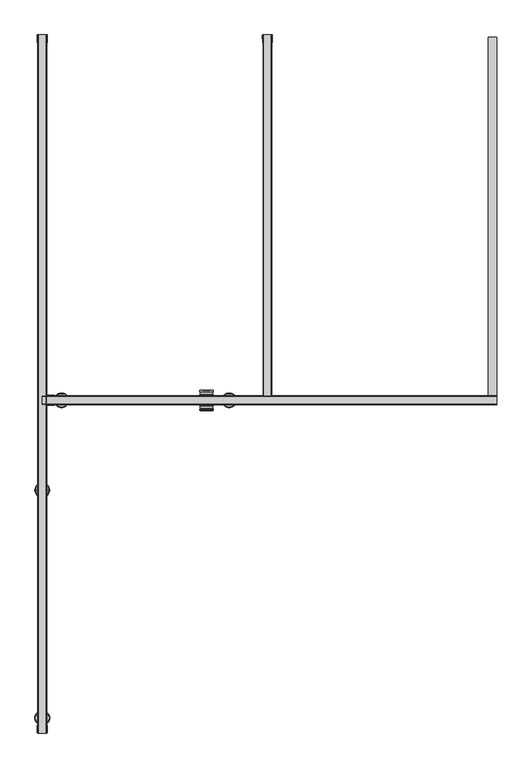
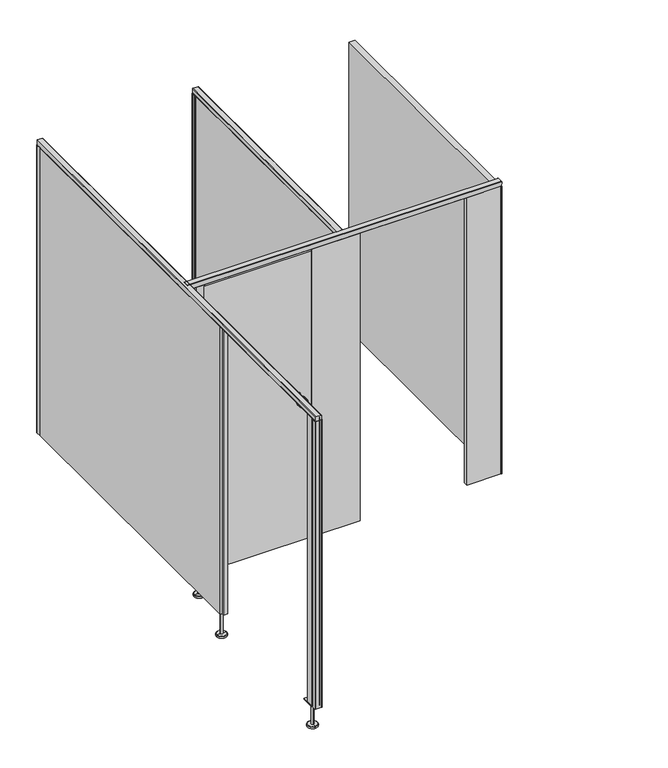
"""IFC4 building model written with IfcOpenShell, lengths in millimetres: proxy geometry, Partition_EuroStyle-Bradley_Corp-ADA_Alcove_2StandardStall-LOFT : Partition_EuroStyle-Bradley_Corp-ADA_Alcove_2StandardStall-LOFT."""

from ifc_helpers import new_model, si_unit, point, frame, frame_2d, origin, place, context, project, spatial, polyline, circle_curve, ellipse_curve, trimmed, segment, composite_curve, outline, extrude, source, transform, mapped, element, save
from ifc_brep_helpers import plane_surface, cylinder_surface, revolved_surface, advanced_brep


def specialty_equipment_827a1ed1(model_context):
    return source(origin(), model_context, "Body", "SolidModel", [
        advanced_brep(
        [(2232.4451766, -1524.0098174, 1050.0), (2289.5951766, -1524.0098174, 1050.0), (2261.0201766, -1524.0098174, 1050.0), (2232.4451766, -1519.2473174, 1050.0), (2289.5951766, -1519.2473174, 1050.0), (2232.4451766, -1500.1973174, 1050.0), (2289.5951766, -1500.1973174, 1050.0), (2289.5951766, -1504.9598174, 1050.0), (2232.4451766, -1504.9598174, 1050.0), (2288.0076766, -1506.5473174, 1050.0), (2234.0326766, -1506.5473174, 1050.0), (2288.0076766, -1517.6598174, 1050.0), (2234.0326766, -1517.6598174, 1050.0), (2261.0201766, -1498.6098174, 1050.0)],
        [
            (0, 1, circle_curve(frame((2261.0201766, -1524.0098174, 1050.0), z_axis=(0.0, -1.0, 0.0), x_axis=(1.0000000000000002, 0.0, 0.0)), 28.575)),
            (1, 2),
            (2, 0),
            (1, 0, circle_curve(frame((2261.0201766, -1524.0098174, 1050.0), z_axis=(0.0, -1.0, 0.0), x_axis=(1.0000000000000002, 0.0, 0.0)), 28.575)),
            (3, 4, circle_curve(frame((2261.0201766, -1519.2473174, 1050.0), z_axis=(0.0, -1.0, 0.0), x_axis=(1.0000000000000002, 0.0, 0.0)), 28.575)),
            (4, 1),
            (0, 3),
            (4, 3, circle_curve(frame((2261.0201766, -1519.2473174, 1050.0), z_axis=(0.0, -1.0, 0.0), x_axis=(1.0000000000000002, 0.0, 0.0)), 28.575)),
            (5, 6, circle_curve(frame((2261.0201766, -1500.1973174, 1050.0), z_axis=(0.0, -1.0, 0.0), x_axis=(1.0000000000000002, 0.0, 0.0)), 28.575)),
            (6, 7),
            (7, 8, circle_curve(frame((2261.0201766, -1504.9598174, 1050.0), z_axis=(0.0, 1.0, 0.0), x_axis=(1.0000000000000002, 0.0, 0.0)), 28.575)),
            (8, 5),
            (6, 5, circle_curve(frame((2261.0201766, -1500.1973174, 1050.0), z_axis=(0.0, -1.0, 0.0), x_axis=(1.0000000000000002, 0.0, 0.0)), 28.575)),
            (8, 7, circle_curve(frame((2261.0201766, -1504.9598174, 1050.0), z_axis=(0.0, 1.0, 0.0), x_axis=(1.0000000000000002, 0.0, 0.0)), 28.575)),
            (7, 9, circle_curve(frame((2289.5951766, -1506.5473174, 1050.0), z_axis=(0.0, 0.0, 1.0), x_axis=(1.0000000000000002, 0.0, 0.0)), 1.5875)),
            (9, 10, circle_curve(frame((2261.0201766, -1506.5473174, 1050.0), z_axis=(0.0, 1.0, 0.0), x_axis=(1.0000000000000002, 0.0, 0.0)), 26.9875)),
            (10, 8, circle_curve(frame((2232.4451766, -1506.5473174, 1050.0), z_axis=(0.0, 0.0, 1.0), x_axis=(-1.0000000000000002, 0.0, 0.0)), 1.5875)),
            (10, 9, circle_curve(frame((2261.0201766, -1506.5473174, 1050.0), z_axis=(0.0, 1.0, 0.0), x_axis=(1.0000000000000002, 0.0, 0.0)), 26.9875)),
            (9, 11),
            (11, 12, circle_curve(frame((2261.0201766, -1517.6598174, 1050.0), z_axis=(0.0, 1.0, 0.0), x_axis=(1.0000000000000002, 0.0, 0.0)), 26.9875)),
            (12, 10),
            (12, 11, circle_curve(frame((2261.0201766, -1517.6598174, 1050.0), z_axis=(0.0, 1.0, 0.0), x_axis=(1.0000000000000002, 0.0, 0.0)), 26.9875)),
            (11, 4, circle_curve(frame((2289.5951766, -1517.6598174, 1050.0), z_axis=(0.0, 0.0, 1.0), x_axis=(1.0000000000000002, 0.0, 0.0)), 1.5875)),
            (3, 12, circle_curve(frame((2232.4451766, -1517.6598174, 1050.0), z_axis=(0.0, 0.0, 1.0), x_axis=(-1.0000000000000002, 0.0, 0.0)), 1.5875)),
            (13, 6, circle_curve(frame((2264.7143, -1690.0843466, 1050.0), z_axis=(0.0, 0.0, -1.0), x_axis=(1.0000000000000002, 0.0, 0.0)), 191.5101613)),
            (5, 13, circle_curve(frame((2257.3260533, -1690.0843466, 1050.0), z_axis=(0.0, 0.0, -1.0), x_axis=(-1.0000000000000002, 0.0, 0.0)), 191.5101613)),
        ],
        [
            plane_surface(frame((2261.0201766, -1524.0098174, 1050.0), z_axis=(0.0, -1.0, 0.0), x_axis=(1.0, 0.0, 0.0))),
            cylinder_surface(frame((2261.0201766, -1524.0098174, 1050.0), z_axis=(0.0, 1.0000000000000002, 0.0), x_axis=(1.0000000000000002, 0.0, 0.0)), 28.575),
            revolved_surface(trimmed(ellipse_curve(frame((2289.5951766, -1506.5473174, 1050.0), z_axis=(0.0, 0.0, -1.0), x_axis=(1.0000000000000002, 0.0, 0.0)), 1.5875, 1.5875), [point((2288.0076766, -1506.5473174, 1050.0))], [point((2289.5951766, -1504.9598174, 1050.0))], True, "CARTESIAN"), (2261.0201766, -1524.0098174, 1050.0), (0.0, 1.0000000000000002, 0.0)),
            cylinder_surface(frame((2261.0201766, -1524.0098174, 1050.0), z_axis=(0.0, 1.0000000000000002, 0.0), x_axis=(1.0000000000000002, 0.0, 0.0)), 26.9875),
            revolved_surface(trimmed(ellipse_curve(frame((2289.5951766, -1517.6598174, 1050.0), z_axis=(0.0, 0.0, -1.0), x_axis=(1.0000000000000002, 0.0, 0.0)), 1.5875, 1.5875), [point((2289.5951766, -1519.2473174, 1050.0))], [point((2288.0076766, -1517.6598174, 1050.0))], True, "CARTESIAN"), (2261.0201766, -1524.0098174, 1050.0), (0.0, 1.0000000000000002, 0.0)),
            revolved_surface(trimmed(ellipse_curve(frame((2264.7143, -1690.0843466, 1050.0), z_axis=(0.0, 0.0, 1.0), x_axis=(1.0000000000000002, 0.0, 0.0)), 191.5101613, 191.5101613), [point((2289.5951766, -1500.1973174, 1050.0))], [point((2261.0201766, -1498.6098174, 1050.0))], True, "CARTESIAN"), (2261.0201766, -1524.0098174, 1050.0), (0.0, 1.0000000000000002, 0.0)),
        ],
        [
            (0, [[1, 2, 3]]),
            (0, [[4, -3, -2]]),
            (1, [[5, 6, -1, 7]]),
            (1, [[8, -7, -4, -6]]),
            (1, [[9, 10, 11, 12]]),
            (1, [[13, -12, 14, -10]]),
            (2, [[-11, 15, 16, 17]]),
            (2, [[-14, -17, 18, -15]]),
            (3, [[-16, 19, 20, 21]]),
            (3, [[-18, -21, 22, -19]]),
            (4, [[-20, 23, -5, 24]]),
            (4, [[-22, -24, -8, -23]]),
            (5, [[25, -9, 26]]),
            (5, [[-26, -13, -25]]),
        ],
    ),
        advanced_brep(
        [(2261.0201766, -1560.0098174, 1050.0), (2289.5951766, -1560.0098174, 1050.0), (2232.4451766, -1560.0098174, 1050.0), (2289.5951766, -1564.7723174, 1050.0), (2232.4451766, -1564.7723174, 1050.0), (2232.4451766, -1579.0598174, 1050.0), (2289.5951766, -1579.0598174, 1050.0), (2289.5951766, -1583.8223174, 1050.0), (2232.4451766, -1583.8223174, 1050.0), (2234.0326766, -1577.4723174, 1050.0), (2288.0076766, -1577.4723174, 1050.0), (2234.0326766, -1566.3598174, 1050.0), (2288.0076766, -1566.3598174, 1050.0), (2261.0201766, -1585.4098174, 1050.0)],
        [
            (0, 1),
            (1, 2, circle_curve(frame((2261.0201766, -1560.0098174, 1050.0), z_axis=(0.0, 1.0, 0.0), x_axis=(1.0000000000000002, 0.0, 0.0)), 28.575)),
            (2, 0),
            (2, 1, circle_curve(frame((2261.0201766, -1560.0098174, 1050.0), z_axis=(0.0, 1.0, 0.0), x_axis=(1.0000000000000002, 0.0, 0.0)), 28.575)),
            (1, 3),
            (3, 4, circle_curve(frame((2261.0201766, -1564.7723174, 1050.0), z_axis=(0.0, 1.0, 0.0), x_axis=(1.0000000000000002, 0.0, 0.0)), 28.575)),
            (4, 2),
            (4, 3, circle_curve(frame((2261.0201766, -1564.7723174, 1050.0), z_axis=(0.0, 1.0, 0.0), x_axis=(1.0000000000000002, 0.0, 0.0)), 28.575)),
            (5, 6, circle_curve(frame((2261.0201766, -1579.0598174, 1050.0), z_axis=(0.0, -1.0, 0.0), x_axis=(1.0000000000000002, 0.0, 0.0)), 28.575)),
            (6, 7),
            (7, 8, circle_curve(frame((2261.0201766, -1583.8223174, 1050.0), z_axis=(0.0, 1.0, 0.0), x_axis=(1.0000000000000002, 0.0, 0.0)), 28.575)),
            (8, 5),
            (6, 5, circle_curve(frame((2261.0201766, -1579.0598174, 1050.0), z_axis=(0.0, -1.0, 0.0), x_axis=(1.0000000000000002, 0.0, 0.0)), 28.575)),
            (8, 7, circle_curve(frame((2261.0201766, -1583.8223174, 1050.0), z_axis=(0.0, 1.0, 0.0), x_axis=(1.0000000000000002, 0.0, 0.0)), 28.575)),
            (9, 10, circle_curve(frame((2261.0201766, -1577.4723174, 1050.0), z_axis=(0.0, -1.0, 0.0), x_axis=(1.0000000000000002, 0.0, 0.0)), 26.9875)),
            (10, 6, circle_curve(frame((2289.5951766, -1577.4723174, 1050.0), z_axis=(0.0, 0.0, 1.0), x_axis=(1.0000000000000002, 0.0, 0.0)), 1.5875)),
            (5, 9, circle_curve(frame((2232.4451766, -1577.4723174, 1050.0), z_axis=(0.0, 0.0, 1.0), x_axis=(-1.0000000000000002, 0.0, 0.0)), 1.5875)),
            (10, 9, circle_curve(frame((2261.0201766, -1577.4723174, 1050.0), z_axis=(0.0, -1.0, 0.0), x_axis=(1.0000000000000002, 0.0, 0.0)), 26.9875)),
            (11, 12, circle_curve(frame((2261.0201766, -1566.3598174, 1050.0), z_axis=(0.0, -1.0, 0.0), x_axis=(1.0000000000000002, 0.0, 0.0)), 26.9875)),
            (12, 10),
            (9, 11),
            (12, 11, circle_curve(frame((2261.0201766, -1566.3598174, 1050.0), z_axis=(0.0, -1.0, 0.0), x_axis=(1.0000000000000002, 0.0, 0.0)), 26.9875)),
            (3, 12, circle_curve(frame((2289.5951766, -1566.3598174, 1050.0), z_axis=(0.0, 0.0, 1.0), x_axis=(1.0000000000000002, 0.0, 0.0)), 1.5875)),
            (11, 4, circle_curve(frame((2232.4451766, -1566.3598174, 1050.0), z_axis=(0.0, 0.0, 1.0), x_axis=(-1.0000000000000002, 0.0, 0.0)), 1.5875)),
            (7, 13, circle_curve(frame((2264.7143, -1393.9352882, 1050.0), z_axis=(0.0, 0.0, -1.0), x_axis=(1.0000000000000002, 0.0, 0.0)), 191.5101613)),
            (13, 8, circle_curve(frame((2257.3260533, -1393.9352882, 1050.0), z_axis=(0.0, 0.0, -1.0), x_axis=(-1.0000000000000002, 0.0, 0.0)), 191.5101613)),
        ],
        [
            plane_surface(frame((2261.0201766, -1560.0098174, 1050.0), z_axis=(0.0, 1.0, 0.0), x_axis=(1.0, 0.0, 0.0))),
            cylinder_surface(frame((2261.0201766, -1560.0098174, 1050.0), z_axis=(0.0, 1.0000000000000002, 0.0), x_axis=(1.0000000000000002, 0.0, 0.0)), 28.575),
            revolved_surface(trimmed(ellipse_curve(frame((2289.5951766, -1577.4723174, 1050.0), z_axis=(0.0, 0.0, -1.0), x_axis=(1.0000000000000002, 0.0, 0.0)), 1.5875, 1.5875), [point((2289.5951766, -1579.0598174, 1050.0))], [point((2288.0076766, -1577.4723174, 1050.0))], True, "CARTESIAN"), (2261.0201766, -1560.0098174, 1050.0), (0.0, 1.0000000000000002, 0.0)),
            cylinder_surface(frame((2261.0201766, -1560.0098174, 1050.0), z_axis=(0.0, 1.0000000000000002, 0.0), x_axis=(1.0000000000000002, 0.0, 0.0)), 26.9875),
            revolved_surface(trimmed(ellipse_curve(frame((2289.5951766, -1566.3598174, 1050.0), z_axis=(0.0, 0.0, -1.0), x_axis=(1.0000000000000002, 0.0, 0.0)), 1.5875, 1.5875), [point((2288.0076766, -1566.3598174, 1050.0))], [point((2289.5951766, -1564.7723174, 1050.0))], True, "CARTESIAN"), (2261.0201766, -1560.0098174, 1050.0), (0.0, 1.0000000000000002, 0.0)),
            revolved_surface(trimmed(ellipse_curve(frame((2264.7143, -1393.9352882, 1050.0), z_axis=(0.0, 0.0, 1.0), x_axis=(1.0000000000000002, 0.0, 0.0)), 191.5101613, 191.5101613), [point((2261.0201766, -1585.4098174, 1050.0))], [point((2289.5951766, -1583.8223174, 1050.0))], True, "CARTESIAN"), (2261.0201766, -1560.0098174, 1050.0), (0.0, 1.0000000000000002, 0.0)),
        ],
        [
            (0, [[1, 2, 3]]),
            (0, [[-3, 4, -1]]),
            (1, [[-2, 5, 6, 7]]),
            (1, [[-4, -7, 8, -5]]),
            (1, [[9, 10, 11, 12]]),
            (1, [[13, -12, 14, -10]]),
            (2, [[15, 16, -9, 17]]),
            (2, [[18, -17, -13, -16]]),
            (3, [[19, 20, -15, 21]]),
            (3, [[22, -21, -18, -20]]),
            (4, [[-6, 23, -19, 24]]),
            (4, [[-8, -24, -22, -23]]),
            (5, [[-11, 25, 26]]),
            (5, [[-14, -26, -25]]),
        ],
    ),
        extrude(outline(polyline([(1669.4170903, -1523.9894923), (2324.5201766, -1523.9894923), (2324.5201766, -1560.0098174), (1669.4170903, -1560.0098174), (1669.4170903, -1523.9894923)])), frame((0.0, 0.0, 150.0), z_axis=(0.0, 0.0, 1.0), x_axis=(1.0, 0.0, 0.0)), (0.0, 0.0, 1.0), 1846.0),
        extrude(outline(composite_curve([segment(polyline([(2497.3288796, -32.5000002), (2496.8205405, -2.02918)]), True, "CONTINUOUS"), segment(trimmed(circle_curve(frame_2d((2498.8497205, -2.02918)), 2.02918), [point((2496.8205405, -2.02918))], [point((2498.8497205, 0.0))], False, "CARTESIAN"), True, "CONTINUOUS"), segment(polyline([(2498.8497205, 0.0), (2536.7909298, 0.0)]), True, "CONTINUOUS"), segment(trimmed(circle_curve(frame_2d((2536.7909298, -2.02918)), 2.02918), [point((2536.7909298, 0.0))], [point((2538.8201098, -2.02918))], False, "CARTESIAN"), True, "CONTINUOUS"), segment(polyline([(2538.8201098, -2.02918), (2538.3117707, -32.5000002), (2536.8131851, -32.5000002)]), True, "CONTINUOUS"), segment(trimmed(circle_curve(frame_2d((2536.8167525, -31.5009082)), 0.9990984), [point((2536.8131851, -32.5000002))], [point((2536.3430999, -30.6212202))], False, "CARTESIAN"), True, "CONTINUOUS"), segment(polyline([(2536.3430999, -30.6212202), (2536.4642099, -23.3575702)]), True, "CONTINUOUS"), segment(trimmed(circle_curve(frame_2d((2536.9817558, -22.5000551)), 1.0015917), [point((2536.4642099, -23.3575702))], [point((2536.4926587, -21.6260013))], False, "CARTESIAN"), True, "CONTINUOUS"), segment(polyline([(2536.4926587, -21.6260013), (2536.78671, -4.0)]), True, "CONTINUOUS"), segment(trimmed(circle_curve(frame_2d((2534.7870154, -3.9990939)), 1.9996948), [point((2536.78671, -4.0))], [point((2534.7379958, -2.0))], True, "CARTESIAN"), True, "CONTINUOUS"), segment(polyline([(2534.7379958, -2.0), (2500.8536968, -2.0)]), True, "CONTINUOUS"), segment(trimmed(circle_curve(frame_2d((2500.8536968, -4.0002204)), 2.0002204), [point((2500.8536968, -2.0))], [point((2498.8535049, -3.9895469))], True, "CARTESIAN"), True, "CONTINUOUS"), segment(polyline([(2498.8535049, -3.9895469), (2499.1475604, -21.6257602)]), True, "CONTINUOUS"), segment(trimmed(circle_curve(frame_2d((2498.6588945, -22.5000551)), 1.0015917), [point((2499.1475604, -21.6257602))], [point((2499.1764404, -23.3575702))], False, "CARTESIAN"), True, "CONTINUOUS"), segment(polyline([(2499.1764404, -23.3575702), (2499.2975504, -30.6212202)]), True, "CONTINUOUS"), segment(trimmed(circle_curve(frame_2d((2498.8238978, -31.5009082)), 0.9990984), [point((2499.2975504, -30.6212202))], [point((2498.8274652, -32.5000002))], False, "CARTESIAN"), True, "CONTINUOUS"), segment(polyline([(2498.8274652, -32.5000002), (2497.3288796, -32.5000002)]), True, "CONTINUOUS")], self_intersect=False)), frame((0.0, 0.0, 150.0), z_axis=(0.0, 0.0, 1.0), x_axis=(1.0, 0.0, 0.0)), (0.0, 0.0, 1.0), 1855.0),
        extrude(outline(composite_curve([segment(polyline([(1617.9203254, -1521.5082093), (1617.9203254, -1523.0067949)]), True, "CONTINUOUS"), segment(trimmed(circle_curve(frame_2d((1616.9212333, -1523.0032275)), 0.9990984), [point((1617.9203254, -1523.0067949))], [point((1616.0415454, -1523.4768801))], False, "CARTESIAN"), True, "CONTINUOUS"), segment(polyline([(1616.0415454, -1523.4768801), (1608.7778953, -1523.3557701)]), True, "CONTINUOUS"), segment(trimmed(circle_curve(frame_2d((1607.9203802, -1522.8382242)), 1.0015917), [point((1608.7778953, -1523.3557701))], [point((1607.0460853, -1523.3268901))], False, "CARTESIAN"), True, "CONTINUOUS"), segment(polyline([(1607.0460853, -1523.3268901), (1589.4098721, -1523.0328346)]), True, "CONTINUOUS"), segment(trimmed(circle_curve(frame_2d((1589.4205455, -1525.0330265)), 2.0002204), [point((1589.4098721, -1523.0328346))], [point((1587.4203251, -1525.0330265))], True, "CARTESIAN"), True, "CONTINUOUS"), segment(polyline([(1587.4203251, -1525.0330265), (1587.4203252, -1558.9173255)]), True, "CONTINUOUS"), segment(trimmed(circle_curve(frame_2d((1589.4194191, -1558.9663451)), 1.9996948), [point((1587.4203252, -1558.9173255))], [point((1589.4203252, -1560.9660398))], True, "CARTESIAN"), True, "CONTINUOUS"), segment(polyline([(1589.4203252, -1560.9660398), (1607.0463264, -1560.6719884)]), True, "CONTINUOUS"), segment(trimmed(circle_curve(frame_2d((1607.9203802, -1561.1610855)), 1.0015917), [point((1607.0463264, -1560.6719884))], [point((1608.7778953, -1560.6435396))], False, "CARTESIAN"), True, "CONTINUOUS"), segment(polyline([(1608.7778953, -1560.6435396), (1616.0415454, -1560.5224296)]), True, "CONTINUOUS"), segment(trimmed(circle_curve(frame_2d((1616.9212333, -1560.9960822)), 0.9990984), [point((1616.0415454, -1560.5224296))], [point((1617.9203254, -1560.9925148))], False, "CARTESIAN"), True, "CONTINUOUS"), segment(polyline([(1617.9203254, -1560.9925148), (1617.9203254, -1562.4911004), (1587.4495052, -1562.9994395)]), True, "CONTINUOUS"), segment(trimmed(circle_curve(frame_2d((1587.4495052, -1560.9702595)), 2.02918), [point((1587.4495052, -1562.9994395))], [point((1585.4203251, -1560.9702595))], False, "CARTESIAN"), True, "CONTINUOUS"), segment(polyline([(1585.4203251, -1560.9702595), (1585.4203251, -1523.0290502)]), True, "CONTINUOUS"), segment(trimmed(circle_curve(frame_2d((1587.4495052, -1523.0290502)), 2.02918), [point((1585.4203251, -1523.0290502))], [point((1587.4495052, -1520.9998702))], False, "CARTESIAN"), True, "CONTINUOUS"), segment(polyline([(1587.4495052, -1520.9998702), (1617.9203254, -1521.5082093)]), True, "CONTINUOUS")], self_intersect=False)), frame((0.0, 0.0, 150.0), z_axis=(0.0, 0.0, 1.0), x_axis=(1.0, 0.0, 0.0)), (0.0, 0.0, 1.0), 1855.0),
        extrude(outline(polyline([(146.0000008, 1630.3184945), (138.0669895, 1630.3184945), (138.0669895, 1710.1657277), (146.0000008, 1710.0671655), (146.0000008, 1630.3184945)])), frame((0.0, -1559.4621549, 0.0), z_axis=(0.0, 1.0, 0.0), x_axis=(0.0, 0.0, 1.0)), (0.0, 0.0, 1.0), 34.925),
        advanced_brep(
        [(1657.9184936, -1541.9996549, 150.0000008), (1639.9184942, -1541.9996549, 150.0000008), (1639.9184942, -1541.9996549, 12.0000001), (1657.9184936, -1541.9996549, 12.0000001), (1648.9184939, -1541.9996549, 150.0000008), (1679.9184928, -1541.9996549, 0.0), (1617.9184949, -1541.9996549, 0.0), (1648.9184939, -1541.9996549, 0.0), (1679.9184928, -1541.9996549, 10.0000001), (1617.9184949, -1541.9996549, 10.0000001), (1677.9160809, -1541.9996549, 12.0000001), (1619.9209068, -1541.9996549, 12.0000001)],
        [
            (0, 1, circle_curve(frame((1648.9184939, -1541.9996549, 150.0000008), z_axis=(0.0, 0.0, -1.0), x_axis=(-1.0, 0.0, 0.0)), 8.9999997)),
            (1, 2),
            (2, 3, circle_curve(frame((1648.9184939, -1541.9996549, 12.0000001), z_axis=(0.0, 0.0, 1.0), x_axis=(-1.0, 0.0, 0.0)), 8.9999997)),
            (3, 0),
            (1, 0, circle_curve(frame((1648.9184939, -1541.9996549, 150.0000008), z_axis=(0.0, 0.0, -1.0), x_axis=(-1.0, 0.0, 0.0)), 8.9999997)),
            (3, 2, circle_curve(frame((1648.9184939, -1541.9996549, 12.0000001), z_axis=(0.0, 0.0, 1.0), x_axis=(-1.0, 0.0, 0.0)), 8.9999997)),
            (4, 1),
            (0, 4),
            (5, 6, circle_curve(frame((1648.9184939, -1541.9996549, 0.0), z_axis=(0.0, 0.0, -1.0), x_axis=(-1.0, 0.0, 0.0)), 30.9999989)),
            (6, 7),
            (7, 5),
            (6, 5, circle_curve(frame((1648.9184939, -1541.9996549, 0.0), z_axis=(0.0, 0.0, -1.0), x_axis=(-1.0, 0.0, 0.0)), 30.9999989)),
            (8, 9, circle_curve(frame((1648.9184939, -1541.9996549, 10.0000001), z_axis=(0.0, 0.0, -1.0), x_axis=(-1.0, 0.0, 0.0)), 30.9999989)),
            (9, 6),
            (5, 8),
            (9, 8, circle_curve(frame((1648.9184939, -1541.9996549, 10.0000001), z_axis=(0.0, 0.0, -1.0), x_axis=(-1.0, 0.0, 0.0)), 30.9999989)),
            (10, 11, circle_curve(frame((1648.9184939, -1541.9996549, 12.0000001), z_axis=(0.0, 0.0, -1.0), x_axis=(-1.0, 0.0, 0.0)), 28.997587)),
            (11, 9),
            (8, 10),
            (11, 10, circle_curve(frame((1648.9184939, -1541.9996549, 12.0000001), z_axis=(0.0, 0.0, -1.0), x_axis=(-1.0, 0.0, 0.0)), 28.997587)),
            (2, 11),
            (10, 3),
        ],
        [
            cylinder_surface(frame((1648.9184939, -1541.9996549, 0.0), z_axis=(0.0, 0.0, 1.0), x_axis=(-1.0, 0.0, 0.0)), 8.9999997),
            plane_surface(frame((1648.9184939, -1541.9996549, 150.0000008), z_axis=(0.0, 0.0, 1.0), x_axis=(-1.0, 0.0, 0.0))),
            plane_surface(frame((1648.9184939, -1541.9996549, 0.0), z_axis=(0.0, 0.0, -1.0), x_axis=(-1.0, 0.0, 0.0))),
            cylinder_surface(frame((1648.9184939, -1541.9996549, 0.0), z_axis=(0.0, 0.0, 1.0), x_axis=(-1.0, 0.0, 0.0)), 30.9999989),
            revolved_surface(polyline([(1617.9184949, -1541.9996549, 10.0000001), (1619.9209068, -1541.9996549, 12.0000001)]), (1648.9184939, -1541.9996549, 0.0), (0.0, 0.0, 1.0)),
            plane_surface(frame((1648.9184939, -1541.9996549, 12.0000001), z_axis=(0.0, 0.0, 1.0), x_axis=(-1.0, 0.0, 0.0))),
        ],
        [
            (0, [[1, 2, 3, 4]]),
            (0, [[5, -4, 6, -2]]),
            (1, [[7, -1, 8]]),
            (1, [[-8, -5, -7]]),
            (2, [[9, 10, 11]]),
            (2, [[12, -11, -10]]),
            (3, [[13, 14, -9, 15]]),
            (3, [[16, -15, -12, -14]]),
            (4, [[17, 18, -13, 19]]),
            (4, [[20, -19, -16, -18]]),
            (5, [[-3, 21, -17, 22]]),
            (5, [[-6, -22, -20, -21]]),
        ],
    ),
        extrude(outline(composite_curve([segment(polyline([(1595.4202531, -1523.9894923), (1670.9173386, -1523.9894923), (1670.9173386, -1525.9826232), (1672.0893041, -1525.9826232), (1673.0172441, -1528.6775566)]), True, "CONTINUOUS"), segment(trimmed(circle_curve(frame_2d((1696.3302625, -1542.1248043)), 26.9132923), [point((1673.0172441, -1528.6775566))], [point((1672.9373096, -1555.4325109))], True, "CARTESIAN"), True, "CONTINUOUS"), segment(polyline([(1672.9373096, -1555.4325109), (1671.99932, -1558.0096163), (1670.9173386, -1558.0096163), (1670.9173386, -1560.0098174), (1595.4202531, -1560.0098174), (1595.4202531, -1523.9894923)]), True, "CONTINUOUS")], self_intersect=False)), frame((0.0, 0.0, 150.0), z_axis=(0.0, 0.0, 1.0), x_axis=(1.0, 0.0, 0.0)), (0.0, 0.0, 1.0), 1855.0),
        extrude(outline(composite_curve([segment(polyline([(1546.918717, -2913.8999998), (1548.4173026, -2913.8999998)]), True, "CONTINUOUS"), segment(trimmed(circle_curve(frame_2d((1548.4137352, -2914.8990918)), 0.9990984), [point((1548.4173026, -2913.8999998))], [point((1548.8873879, -2915.7787798))], False, "CARTESIAN"), True, "CONTINUOUS"), segment(polyline([(1548.8873879, -2915.7787798), (1548.7662779, -2923.0424298)]), True, "CONTINUOUS"), segment(trimmed(circle_curve(frame_2d((1548.248732, -2923.8999449)), 1.0015917), [point((1548.7662779, -2923.0424298))], [point((1548.7373979, -2924.7742398))], False, "CARTESIAN"), True, "CONTINUOUS"), segment(polyline([(1548.7373979, -2924.7742398), (1548.4433424, -2942.4104531)]), True, "CONTINUOUS"), segment(trimmed(circle_curve(frame_2d((1550.4435342, -2942.3997796)), 2.0002204), [point((1548.4433424, -2942.4104531))], [point((1550.4435342, -2944.4))], True, "CARTESIAN"), True, "CONTINUOUS"), segment(polyline([(1550.4435342, -2944.4), (1584.3278332, -2944.4)]), True, "CONTINUOUS"), segment(trimmed(circle_curve(frame_2d((1584.3768528, -2942.4009061)), 1.9996948), [point((1584.3278332, -2944.4))], [point((1586.3765475, -2942.4))], True, "CARTESIAN"), True, "CONTINUOUS"), segment(polyline([(1586.3765475, -2942.4), (1586.0824961, -2924.7739987)]), True, "CONTINUOUS"), segment(trimmed(circle_curve(frame_2d((1586.5715932, -2923.8999449)), 1.0015917), [point((1586.0824961, -2924.7739987))], [point((1586.0540473, -2923.0424298))], False, "CARTESIAN"), True, "CONTINUOUS"), segment(polyline([(1586.0540473, -2923.0424298), (1585.9329373, -2915.7787798)]), True, "CONTINUOUS"), segment(trimmed(circle_curve(frame_2d((1586.4065899, -2914.8990918)), 0.9990984), [point((1585.9329373, -2915.7787798))], [point((1586.4030225, -2913.8999998))], False, "CARTESIAN"), True, "CONTINUOUS"), segment(polyline([(1586.4030225, -2913.8999998), (1587.9016081, -2913.8999998), (1588.4099473, -2944.37082)]), True, "CONTINUOUS"), segment(trimmed(circle_curve(frame_2d((1586.3807672, -2944.37082)), 2.02918), [point((1588.4099473, -2944.37082))], [point((1586.3807672, -2946.4))], False, "CARTESIAN"), True, "CONTINUOUS"), segment(polyline([(1586.3807672, -2946.4), (1548.4395579, -2946.4)]), True, "CONTINUOUS"), segment(trimmed(circle_curve(frame_2d((1548.4395579, -2944.37082)), 2.02918), [point((1548.4395579, -2946.4))], [point((1546.4103779, -2944.37082))], False, "CARTESIAN"), True, "CONTINUOUS"), segment(polyline([(1546.4103779, -2944.37082), (1546.918717, -2913.8999998)]), True, "CONTINUOUS")], self_intersect=False)), frame((0.0, 0.0, 150.0), z_axis=(0.0, 0.0, 1.0), x_axis=(1.0, 0.0, 0.0)), (0.0, 0.0, 1.0), 1855.0),
        extrude(outline(polyline([(-2901.5018307, 146.0000008), (-2821.7531596, 146.0000008), (-2821.6545975, 138.0669895), (-2901.5018307, 138.0669895), (-2901.5018307, 146.0000008)])), frame((1549.9476626, 0.0, 0.0), z_axis=(1.0, 0.0, 0.0), x_axis=(0.0, 1.0, 0.0)), (0.0, 0.0, 1.0), 34.925),
        advanced_brep(
        [(1567.4101626, -2873.9018316, 150.0000008), (1567.4101626, -2891.901831, 150.0000008), (1567.4101626, -2891.901831, 12.0000001), (1567.4101626, -2873.9018316, 12.0000001), (1567.4101626, -2882.9018313, 150.0000008), (1567.4101626, -2851.9018323, 0.0), (1567.4101626, -2913.9018302, 0.0), (1567.4101626, -2882.9018313, 0.0), (1567.4101626, -2851.9018323, 10.0000001), (1567.4101626, -2913.9018302, 10.0000001), (1567.4101626, -2853.9042443, 12.0000001), (1567.4101626, -2911.8994183, 12.0000001)],
        [
            (0, 1, circle_curve(frame((1567.4101626, -2882.9018313, 150.0000008), z_axis=(0.0, 0.0, -1.0), x_axis=(0.0, -1.0, 0.0)), 8.9999997)),
            (1, 2),
            (2, 3, circle_curve(frame((1567.4101626, -2882.9018313, 12.0000001), z_axis=(0.0, 0.0, 1.0), x_axis=(0.0, -1.0, 0.0)), 8.9999997)),
            (3, 0),
            (1, 0, circle_curve(frame((1567.4101626, -2882.9018313, 150.0000008), z_axis=(0.0, 0.0, -1.0), x_axis=(0.0, -1.0, 0.0)), 8.9999997)),
            (3, 2, circle_curve(frame((1567.4101626, -2882.9018313, 12.0000001), z_axis=(0.0, 0.0, 1.0), x_axis=(0.0, -1.0, 0.0)), 8.9999997)),
            (4, 1),
            (0, 4),
            (5, 6, circle_curve(frame((1567.4101626, -2882.9018313, 0.0), z_axis=(0.0, 0.0, -1.0), x_axis=(0.0, -1.0, 0.0)), 30.9999989)),
            (6, 7),
            (7, 5),
            (6, 5, circle_curve(frame((1567.4101626, -2882.9018313, 0.0), z_axis=(0.0, 0.0, -1.0), x_axis=(0.0, -1.0, 0.0)), 30.9999989)),
            (8, 9, circle_curve(frame((1567.4101626, -2882.9018313, 10.0000001), z_axis=(0.0, 0.0, -1.0), x_axis=(0.0, -1.0, 0.0)), 30.9999989)),
            (9, 6),
            (5, 8),
            (9, 8, circle_curve(frame((1567.4101626, -2882.9018313, 10.0000001), z_axis=(0.0, 0.0, -1.0), x_axis=(0.0, -1.0, 0.0)), 30.9999989)),
            (10, 11, circle_curve(frame((1567.4101626, -2882.9018313, 12.0000001), z_axis=(0.0, 0.0, -1.0), x_axis=(0.0, -1.0, 0.0)), 28.997587)),
            (11, 9),
            (8, 10),
            (11, 10, circle_curve(frame((1567.4101626, -2882.9018313, 12.0000001), z_axis=(0.0, 0.0, -1.0), x_axis=(0.0, -1.0, 0.0)), 28.997587)),
            (2, 11),
            (10, 3),
        ],
        [
            cylinder_surface(frame((1567.4101626, -2882.9018313, 0.0), z_axis=(0.0, 0.0, 1.0), x_axis=(0.0, -1.0, 0.0)), 8.9999997),
            plane_surface(frame((1567.4101626, -2882.9018313, 150.0000008), z_axis=(0.0, 0.0, 1.0), x_axis=(0.0, -1.0, 0.0))),
            plane_surface(frame((1567.4101626, -2882.9018313, 0.0), z_axis=(0.0, 0.0, -1.0), x_axis=(0.0, -1.0, 0.0))),
            cylinder_surface(frame((1567.4101626, -2882.9018313, 0.0), z_axis=(0.0, 0.0, 1.0), x_axis=(0.0, -1.0, 0.0)), 30.9999989),
            revolved_surface(polyline([(1567.4101626, -2913.9018302, 10.0000001), (1567.4101626, -2911.8994183, 12.0000001)]), (1567.4101626, -2882.9018313, 0.0), (0.0, 0.0, 1.0)),
            plane_surface(frame((1567.4101626, -2882.9018313, 12.0000001), z_axis=(0.0, 0.0, 1.0), x_axis=(0.0, -1.0, 0.0))),
        ],
        [
            (0, [[1, 2, 3, 4]]),
            (0, [[5, -4, 6, -2]]),
            (1, [[7, -1, 8]]),
            (1, [[-8, -5, -7]]),
            (2, [[9, 10, 11]]),
            (2, [[12, -11, -10]]),
            (3, [[13, 14, -9, 15]]),
            (3, [[16, -15, -12, -14]]),
            (4, [[17, 18, -13, 19]]),
            (4, [[20, -19, -16, -18]]),
            (5, [[-3, 21, -17, 22]]),
            (5, [[-6, -22, -20, -21]]),
        ],
    ),
        extrude(outline(composite_curve([segment(polyline([(1549.4, -2936.400072), (1549.4, -2860.9029866), (1551.393131, -2860.9029866), (1551.393131, -2859.7310211), (1554.0880643, -2858.8030811)]), True, "CONTINUOUS"), segment(trimmed(circle_curve(frame_2d((1567.535312, -2835.4900626)), 26.9132923), [point((1554.0880643, -2858.8030811))], [point((1580.8430186, -2858.8830156))], True, "CARTESIAN"), True, "CONTINUOUS"), segment(polyline([(1580.8430186, -2858.8830156), (1583.420124, -2859.8210052), (1583.420124, -2860.9029866), (1585.4203251, -2860.9029866), (1585.4203251, -2936.400072), (1549.4, -2936.400072)]), True, "CONTINUOUS")], self_intersect=False)), frame((0.0, 0.0, 150.0), z_axis=(0.0, 0.0, 1.0), x_axis=(1.0, 0.0, 0.0)), (0.0, 0.0, 1.0), 1855.0),
        extrude(outline(composite_curve([segment(polyline([(1546.918717, -32.5000002), (1546.4103779, -2.02918)]), True, "CONTINUOUS"), segment(trimmed(circle_curve(frame_2d((1548.4395579, -2.02918)), 2.02918), [point((1546.4103779, -2.02918))], [point((1548.4395579, 0.0))], False, "CARTESIAN"), True, "CONTINUOUS"), segment(polyline([(1548.4395579, 0.0), (1586.3807672, 0.0)]), True, "CONTINUOUS"), segment(trimmed(circle_curve(frame_2d((1586.3807672, -2.02918)), 2.02918), [point((1586.3807672, 0.0))], [point((1588.4099473, -2.02918))], False, "CARTESIAN"), True, "CONTINUOUS"), segment(polyline([(1588.4099473, -2.02918), (1587.9016081, -32.5000002), (1586.4030225, -32.5000002)]), True, "CONTINUOUS"), segment(trimmed(circle_curve(frame_2d((1586.4065899, -31.5009082)), 0.9990984), [point((1586.4030225, -32.5000002))], [point((1585.9329373, -30.6212202))], False, "CARTESIAN"), True, "CONTINUOUS"), segment(polyline([(1585.9329373, -30.6212202), (1586.0540473, -23.3575702)]), True, "CONTINUOUS"), segment(trimmed(circle_curve(frame_2d((1586.5715932, -22.5000551)), 1.0015917), [point((1586.0540473, -23.3575702))], [point((1586.0824961, -21.6260013))], False, "CARTESIAN"), True, "CONTINUOUS"), segment(polyline([(1586.0824961, -21.6260013), (1586.3765475, -4.0)]), True, "CONTINUOUS"), segment(trimmed(circle_curve(frame_2d((1584.3768528, -3.9990939)), 1.9996948), [point((1586.3765475, -4.0))], [point((1584.3278332, -2.0))], True, "CARTESIAN"), True, "CONTINUOUS"), segment(polyline([(1584.3278332, -2.0), (1550.4435342, -2.0)]), True, "CONTINUOUS"), segment(trimmed(circle_curve(frame_2d((1550.4435342, -4.0002204)), 2.0002204), [point((1550.4435342, -2.0))], [point((1548.4433424, -3.9895469))], True, "CARTESIAN"), True, "CONTINUOUS"), segment(polyline([(1548.4433424, -3.9895469), (1548.7373979, -21.6257602)]), True, "CONTINUOUS"), segment(trimmed(circle_curve(frame_2d((1548.248732, -22.5000551)), 1.0015917), [point((1548.7373979, -21.6257602))], [point((1548.7662779, -23.3575702))], False, "CARTESIAN"), True, "CONTINUOUS"), segment(polyline([(1548.7662779, -23.3575702), (1548.8873879, -30.6212202)]), True, "CONTINUOUS"), segment(trimmed(circle_curve(frame_2d((1548.4137352, -31.5009082)), 0.9990984), [point((1548.8873879, -30.6212202))], [point((1548.4173026, -32.5000002))], False, "CARTESIAN"), True, "CONTINUOUS"), segment(polyline([(1548.4173026, -32.5000002), (1546.918717, -32.5000002)]), True, "CONTINUOUS")], self_intersect=False)), frame((0.0, 0.0, 150.0), z_axis=(0.0, 0.0, 1.0), x_axis=(1.0, 0.0, 0.0)), (0.0, 0.0, 1.0), 1855.0),
        extrude(outline(composite_curve([segment(polyline([(2032.9666591, 2499.8203701), (2005.7492965, 2500.2741806)]), True, "CONTINUOUS"), segment(trimmed(circle_curve(frame_2d((2005.762, 2501.0360747)), 0.762), [point((2005.7492965, 2500.2741806))], [point((2005.0, 2501.0360747))], False, "CARTESIAN"), True, "CONTINUOUS"), segment(polyline([(2005.0, 2501.0360747), (2005.0, 2534.5733505)]), True, "CONTINUOUS"), segment(trimmed(circle_curve(frame_2d((2005.79375, 2534.5733505)), 0.79375), [point((2005.0, 2534.5733505))], [point((2005.7805172, 2535.3669902))], False, "CARTESIAN"), True, "CONTINUOUS"), segment(polyline([(2005.7805172, 2535.3669902), (2032.9666591, 2535.8202802)]), True, "CONTINUOUS"), segment(trimmed(circle_curve(frame_2d((2033.0000015, 2533.8205597)), 1.9999985), [point((2032.9666591, 2535.8202802))], [point((2035.0, 2533.8205597))], False, "CARTESIAN"), True, "CONTINUOUS"), segment(polyline([(2035.0, 2533.8205597), (2035.0, 2501.8200907)]), True, "CONTINUOUS"), segment(trimmed(circle_curve(frame_2d((2033.0000015, 2501.8200907)), 1.9999985), [point((2035.0, 2501.8200907))], [point((2032.9666591, 2499.8203701))], False, "CARTESIAN"), True, "CONTINUOUS")], self_intersect=False)), frame((0.0, -1524.0, 0.0), z_axis=(0.0, 1.0, 0.0), x_axis=(0.0, 0.0, 1.0)), (0.0, 0.0, 1.0), 1524.0),
        advanced_brep(
        [(1558.4101629, -1920.8768313, 150.0000008), (1576.4101623, -1920.8768313, 150.0000008), (1576.4101623, -1920.8768313, 12.0000001), (1558.4101629, -1920.8768313, 12.0000001), (1567.4101626, -1920.8768313, 150.0000008), (1536.4101636, -1920.8768313, 0.0), (1598.4101615, -1920.8768313, 0.0), (1567.4101626, -1920.8768313, 0.0), (1536.4101636, -1920.8768313, 10.0000001), (1598.4101615, -1920.8768313, 10.0000001), (1538.4125756, -1920.8768313, 12.0000001), (1596.4077496, -1920.8768313, 12.0000001)],
        [
            (0, 1, circle_curve(frame((1567.4101626, -1920.8768313, 150.0000008), z_axis=(0.0, 0.0, -1.0), x_axis=(1.0, 0.0, 0.0)), 8.9999997)),
            (1, 2),
            (2, 3, circle_curve(frame((1567.4101626, -1920.8768313, 12.0000001), z_axis=(0.0, 0.0, 1.0), x_axis=(1.0, 0.0, 0.0)), 8.9999997)),
            (3, 0),
            (1, 0, circle_curve(frame((1567.4101626, -1920.8768313, 150.0000008), z_axis=(0.0, 0.0, -1.0), x_axis=(1.0, 0.0, 0.0)), 8.9999997)),
            (3, 2, circle_curve(frame((1567.4101626, -1920.8768313, 12.0000001), z_axis=(0.0, 0.0, 1.0), x_axis=(1.0, 0.0, 0.0)), 8.9999997)),
            (4, 1),
            (0, 4),
            (5, 6, circle_curve(frame((1567.4101626, -1920.8768313, 0.0), z_axis=(0.0, 0.0, -1.0), x_axis=(1.0, 0.0, 0.0)), 30.9999989)),
            (6, 7),
            (7, 5),
            (6, 5, circle_curve(frame((1567.4101626, -1920.8768313, 0.0), z_axis=(0.0, 0.0, -1.0), x_axis=(1.0, 0.0, 0.0)), 30.9999989)),
            (8, 9, circle_curve(frame((1567.4101626, -1920.8768313, 10.0000001), z_axis=(0.0, 0.0, -1.0), x_axis=(1.0, 0.0, 0.0)), 30.9999989)),
            (9, 6),
            (5, 8),
            (9, 8, circle_curve(frame((1567.4101626, -1920.8768313, 10.0000001), z_axis=(0.0, 0.0, -1.0), x_axis=(1.0, 0.0, 0.0)), 30.9999989)),
            (10, 11, circle_curve(frame((1567.4101626, -1920.8768313, 12.0000001), z_axis=(0.0, 0.0, -1.0), x_axis=(1.0, 0.0, 0.0)), 28.997587)),
            (11, 9),
            (8, 10),
            (11, 10, circle_curve(frame((1567.4101626, -1920.8768313, 12.0000001), z_axis=(0.0, 0.0, -1.0), x_axis=(1.0, 0.0, 0.0)), 28.997587)),
            (2, 11),
            (10, 3),
        ],
        [
            cylinder_surface(frame((1567.4101626, -1920.8768313, 0.0), z_axis=(0.0, 0.0, 1.0), x_axis=(1.0, 0.0, 0.0)), 8.9999997),
            plane_surface(frame((1567.4101626, -1920.8768313, 150.0000008), z_axis=(0.0, 0.0, 1.0), x_axis=(1.0, 0.0, 0.0))),
            plane_surface(frame((1567.4101626, -1920.8768313, 0.0), z_axis=(0.0, 0.0, -1.0), x_axis=(1.0, 0.0, 0.0))),
            cylinder_surface(frame((1567.4101626, -1920.8768313, 0.0), z_axis=(0.0, 0.0, 1.0), x_axis=(1.0, 0.0, 0.0)), 30.9999989),
            revolved_surface(polyline([(1598.4101615, -1920.8768313, 10.0000001), (1596.4077496, -1920.8768313, 12.0000001)]), (1567.4101626, -1920.8768313, 0.0), (0.0, 0.0, 1.0)),
            plane_surface(frame((1567.4101626, -1920.8768313, 12.0000001), z_axis=(0.0, 0.0, 1.0), x_axis=(1.0, 0.0, 0.0))),
        ],
        [
            (0, [[1, 2, 3, 4]]),
            (0, [[5, -4, 6, -2]]),
            (1, [[7, -1, 8]]),
            (1, [[-8, -5, -7]]),
            (2, [[9, 10, 11]]),
            (2, [[12, -11, -10]]),
            (3, [[13, 14, -9, 15]]),
            (3, [[16, -15, -12, -14]]),
            (4, [[17, 18, -13, 19]]),
            (4, [[20, -19, -16, -18]]),
            (5, [[-3, 21, -17, 22]]),
            (5, [[-6, -22, -20, -21]]),
        ],
    ),
        extrude(outline(composite_curve([segment(polyline([(-1523.9996998, 2032.9666591), (-1524.4535103, 2005.7492965)]), True, "CONTINUOUS"), segment(trimmed(circle_curve(frame_2d((-1525.2154044, 2005.762)), 0.762), [point((-1524.4535103, 2005.7492965))], [point((-1525.2154044, 2005.0))], False, "CARTESIAN"), True, "CONTINUOUS"), segment(polyline([(-1525.2154044, 2005.0), (-1558.7526802, 2005.0)]), True, "CONTINUOUS"), segment(trimmed(circle_curve(frame_2d((-1558.7526802, 2005.79375)), 0.79375), [point((-1558.7526802, 2005.0))], [point((-1559.5463199, 2005.7805172))], False, "CARTESIAN"), True, "CONTINUOUS"), segment(polyline([(-1559.5463199, 2005.7805172), (-1559.9996099, 2032.9666591)]), True, "CONTINUOUS"), segment(trimmed(circle_curve(frame_2d((-1557.9998894, 2033.0000015)), 1.9999985), [point((-1559.9996099, 2032.9666591))], [point((-1557.9998894, 2035.0))], False, "CARTESIAN"), True, "CONTINUOUS"), segment(polyline([(-1557.9998894, 2035.0), (-1525.9994204, 2035.0)]), True, "CONTINUOUS"), segment(trimmed(circle_curve(frame_2d((-1525.9994204, 2033.0000015)), 1.9999985), [point((-1525.9994204, 2035.0))], [point((-1523.9996998, 2032.9666591))], False, "CARTESIAN"), True, "CONTINUOUS")], self_intersect=False)), frame((1567.4101626, 0.0, 0.0), z_axis=(1.0, 0.0, 0.0), x_axis=(0.0, 1.0, 0.0)), (0.0, 0.0, 1.0), 1918.8101626),
        extrude(outline(composite_curve([segment(polyline([(2032.9666591, 1549.4102076), (2005.7492965, 1549.8640181)]), True, "CONTINUOUS"), segment(trimmed(circle_curve(frame_2d((2005.762, 1550.6259122)), 0.762), [point((2005.7492965, 1549.8640181))], [point((2005.0, 1550.6259122))], False, "CARTESIAN"), True, "CONTINUOUS"), segment(polyline([(2005.0, 1550.6259122), (2005.0, 1584.163188)]), True, "CONTINUOUS"), segment(trimmed(circle_curve(frame_2d((2005.79375, 1584.163188)), 0.79375), [point((2005.0, 1584.163188))], [point((2005.7805172, 1584.9568277))], False, "CARTESIAN"), True, "CONTINUOUS"), segment(polyline([(2005.7805172, 1584.9568277), (2032.9666591, 1585.4101176)]), True, "CONTINUOUS"), segment(trimmed(circle_curve(frame_2d((2033.0000015, 1583.4103971)), 1.9999985), [point((2032.9666591, 1585.4101176))], [point((2035.0, 1583.4103971))], False, "CARTESIAN"), True, "CONTINUOUS"), segment(polyline([(2035.0, 1583.4103971), (2035.0, 1551.4099281)]), True, "CONTINUOUS"), segment(trimmed(circle_curve(frame_2d((2033.0000015, 1551.4099281)), 1.9999985), [point((2035.0, 1551.4099281))], [point((2032.9666591, 1549.4102076))], False, "CARTESIAN"), True, "CONTINUOUS")], self_intersect=False)), frame((0.0, -2946.4, 0.0), z_axis=(0.0, 1.0, 0.0), x_axis=(0.0, 0.0, 1.0)), (0.0, 0.0, 1.0), 2946.4),
        advanced_brep(
        [(2347.4453255, -1541.9996549, 150.0000008), (2365.4453248, -1541.9996549, 150.0000008), (2365.4453248, -1541.9996549, 12.0000001), (2347.4453255, -1541.9996549, 12.0000001), (2356.4453251, -1541.9996549, 150.0000008), (2325.4453262, -1541.9996549, 0.0), (2387.4453241, -1541.9996549, 0.0), (2356.4453251, -1541.9996549, 0.0), (2325.4453262, -1541.9996549, 10.0000001), (2387.4453241, -1541.9996549, 10.0000001), (2327.4477381, -1541.9996549, 12.0000001), (2385.4429122, -1541.9996549, 12.0000001)],
        [
            (0, 1, circle_curve(frame((2356.4453251, -1541.9996549, 150.0000008), z_axis=(0.0, 0.0, -1.0), x_axis=(1.0, 0.0, 0.0)), 8.9999997)),
            (1, 2),
            (2, 3, circle_curve(frame((2356.4453251, -1541.9996549, 12.0000001), z_axis=(0.0, 0.0, 1.0), x_axis=(1.0, 0.0, 0.0)), 8.9999997)),
            (3, 0),
            (1, 0, circle_curve(frame((2356.4453251, -1541.9996549, 150.0000008), z_axis=(0.0, 0.0, -1.0), x_axis=(1.0, 0.0, 0.0)), 8.9999997)),
            (3, 2, circle_curve(frame((2356.4453251, -1541.9996549, 12.0000001), z_axis=(0.0, 0.0, 1.0), x_axis=(1.0, 0.0, 0.0)), 8.9999997)),
            (4, 1),
            (0, 4),
            (5, 6, circle_curve(frame((2356.4453251, -1541.9996549, 0.0), z_axis=(0.0, 0.0, -1.0), x_axis=(1.0, 0.0, 0.0)), 30.9999989)),
            (6, 7),
            (7, 5),
            (6, 5, circle_curve(frame((2356.4453251, -1541.9996549, 0.0), z_axis=(0.0, 0.0, -1.0), x_axis=(1.0, 0.0, 0.0)), 30.9999989)),
            (8, 9, circle_curve(frame((2356.4453251, -1541.9996549, 10.0000001), z_axis=(0.0, 0.0, -1.0), x_axis=(1.0, 0.0, 0.0)), 30.9999989)),
            (9, 6),
            (5, 8),
            (9, 8, circle_curve(frame((2356.4453251, -1541.9996549, 10.0000001), z_axis=(0.0, 0.0, -1.0), x_axis=(1.0, 0.0, 0.0)), 30.9999989)),
            (10, 11, circle_curve(frame((2356.4453251, -1541.9996549, 12.0000001), z_axis=(0.0, 0.0, -1.0), x_axis=(1.0, 0.0, 0.0)), 28.997587)),
            (11, 9),
            (8, 10),
            (11, 10, circle_curve(frame((2356.4453251, -1541.9996549, 12.0000001), z_axis=(0.0, 0.0, -1.0), x_axis=(1.0, 0.0, 0.0)), 28.997587)),
            (2, 11),
            (10, 3),
        ],
        [
            cylinder_surface(frame((2356.4453251, -1541.9996549, 0.0), z_axis=(0.0, 0.0, 1.0), x_axis=(1.0, 0.0, 0.0)), 8.9999997),
            plane_surface(frame((2356.4453251, -1541.9996549, 150.0000008), z_axis=(0.0, 0.0, 1.0), x_axis=(1.0, 0.0, 0.0))),
            plane_surface(frame((2356.4453251, -1541.9996549, 0.0), z_axis=(0.0, 0.0, -1.0), x_axis=(1.0, 0.0, 0.0))),
            cylinder_surface(frame((2356.4453251, -1541.9996549, 0.0), z_axis=(0.0, 0.0, 1.0), x_axis=(1.0, 0.0, 0.0)), 30.9999989),
            revolved_surface(polyline([(2387.4453241, -1541.9996549, 10.0000001), (2385.4429122, -1541.9996549, 12.0000001)]), (2356.4453251, -1541.9996549, 0.0), (0.0, 0.0, 1.0)),
            plane_surface(frame((2356.4453251, -1541.9996549, 12.0000001), z_axis=(0.0, 0.0, 1.0), x_axis=(1.0, 0.0, 0.0))),
        ],
        [
            (0, [[1, 2, 3, 4]]),
            (0, [[5, -4, 6, -2]]),
            (1, [[7, -1, 8]]),
            (1, [[-8, -5, -7]]),
            (2, [[9, 10, 11]]),
            (2, [[12, -11, -10]]),
            (3, [[13, 14, -9, 15]]),
            (3, [[16, -15, -12, -14]]),
            (4, [[17, 18, -13, 19]]),
            (4, [[20, -19, -16, -18]]),
            (5, [[-3, 21, -17, 22]]),
            (5, [[-6, -22, -20, -21]]),
        ],
    ),
        extrude(outline(polyline([(2619.8170903, -1524.0), (2619.8170903, -1559.9996549), (2324.5201766, -1559.9996549), (2324.5201766, -1524.0), (2619.8170903, -1524.0)])), frame((0.0, 0.0, 150.0), z_axis=(0.0, 0.0, 1.0), x_axis=(1.0, 0.0, 0.0)), (0.0, 0.0, 1.0), 1855.0),
        extrude(outline(polyline([(3486.2203251, -1555.2473174), (3486.2203251, -1559.9996099), (3481.4578251, -1559.9996099), (3481.4578251, -1555.2473174), (3486.2203251, -1555.2473174)])), frame((0.0, 0.0, 150.0), z_axis=(0.0, 0.0, 1.0), x_axis=(1.0, 0.0, 0.0)), (0.0, 0.0, 1.0), 1855.0),
        extrude(outline(polyline([(3274.4221564, -1534.6098174), (3284.8324999, -1534.6098174), (3284.8324999, -1524.0), (3450.2105077, -1524.0), (3481.4578251, -1555.2473174), (3481.4578251, -1559.9996549), (3274.4221564, -1559.9996549), (3274.4221564, -1534.6098174)])), frame((0.0, 0.0, 150.0), z_axis=(0.0, 0.0, 1.0), x_axis=(1.0, 0.0, 0.0)), (0.0, 0.0, 1.0), 1855.0),
        extrude(outline(polyline([(3450.2203251, -1524.0098174), (3450.2203251, -9.9993891), (3486.2203251, -9.9993891), (3486.2203251, -1555.2473174), (3481.4578251, -1555.2473174), (3450.2203251, -1524.0098174)])), frame((0.0, 0.0, 150.0), z_axis=(0.0, 0.0, 1.0), x_axis=(1.0, 0.0, 0.0)), (0.0, 0.0, 1.0), 1855.0),
        extrude(outline(polyline([(2499.8203251, -1514.0), (2499.8203251, -9.9993891), (2535.8203251, -9.9993891), (2535.8203251, -1514.0), (2499.8203251, -1514.0)])), frame((0.0, 0.0, 150.0), z_axis=(0.0, 0.0, 1.0), x_axis=(1.0, 0.0, 0.0)), (0.0, 0.0, 1.0), 1855.0),
        extrude(outline(polyline([(1549.4, -1938.492153), (1549.4, -9.9993891), (1585.4203251, -9.9993891), (1585.4203251, -1952.5792936), (1560.4056866, -1952.5792936), (1560.4056866, -1938.492153), (1549.4, -1938.492153)])), frame((0.0, 0.0, 150.0), z_axis=(0.0, 0.0, 1.0), x_axis=(1.0, 0.0, 0.0)), (0.0, 0.0, 1.0), 1855.0),
    ])


if __name__ == "__main__":
    model = new_model("IFC4")
    model_context = context("Model", 3, world=origin())
    ifc_project = project(units=[si_unit("LENGTHUNIT", "METRE", prefix="MILLI")], contexts=[model_context])
    site = spatial("IfcSite", under=ifc_project)
    building = spatial("IfcBuilding", under=site)
    placement = place(None, origin())
    specialty_equipment_shape = specialty_equipment_827a1ed1(model_context)
    element("IfcBuildingElementProxy", 1, Name="Partition_EuroStyle-Bradley_Corp-ADA_Alcove_2StandardStall-LOFT : Partition_EuroStyle-Bradley_Corp-ADA_Alcove_2StandardStall-LOFT", ObjectType="Partition_EuroStyle-Bradley_Corp-ADA_Alcove_2StandardStall-LOFT : Partition_EuroStyle-Bradley_Corp-ADA_Alcove_2StandardStall-LOFT", at=placement, inside=building, context=model_context, shape_type="MappedRepresentation", body=[
        mapped(specialty_equipment_shape, transform((0.0, 0.0, 0.0), x_axis=(1.0, 0.0, 0.0), y_axis=(0.0, 1.0, 0.0), z_axis=(0.0, 0.0, 1.0))),
    ])
    save(model, "model.ifc")
